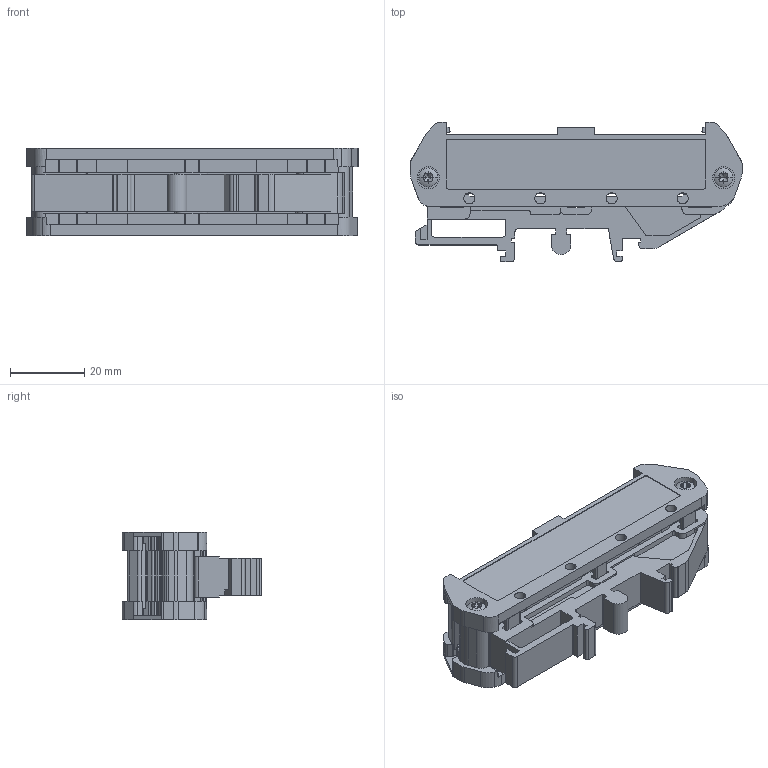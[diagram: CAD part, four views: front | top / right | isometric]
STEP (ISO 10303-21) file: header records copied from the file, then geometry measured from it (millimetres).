
FILE_DESCRIPTION(('FreeCAD Model'),'2;1');
FILE_NAME('C:/Users/Electromen/Desktop/EM-KP72-20.step', '2020-03-26T14:13:34',('Author'),(''), 'Open CASCADE STEP processor 7.2','FreeCAD','Unknown');
FILE_SCHEMA(('AUTOMOTIVE_DESIGN { 1 0 10303 214 1 1 1 1 }'));
Length unit declared in the file: millimetre
Products named in the file (8): Cut001; UM_72-FE_H.Select__00359175; UM_72-SE_H.Select__00276902; Schr.Lins._3x14-Z_01151118; Schr.Lins._3x14-Z_01151119; UM_72-SE_H.Select__00461501; Schr.Lins._3x14-Z_01151120; Schr.Lins._3x14-Z_01151121
Bounding box: 89.6 x 37.6 x 23.5 mm (x, y, z)
Volume: 20222.6 mm3; surface area: 23123.1 mm2
Topology: 8 solids, 8 shells, 1098 faces, 3229 edges, 2148 vertices
Faces by surface type: plane 611, cylinder 425, cone 36, bspline 10, sphere 8, torus 8
Entity records: 147302 total; most frequent: CARTESIAN_POINT 84926, DIRECTION 11235, LINE 6783, VECTOR 6783, ORIENTED_EDGE 6442, PCURVE 6442, DEFINITIONAL_REPRESENTATION 6442, EDGE_CURVE 3221
